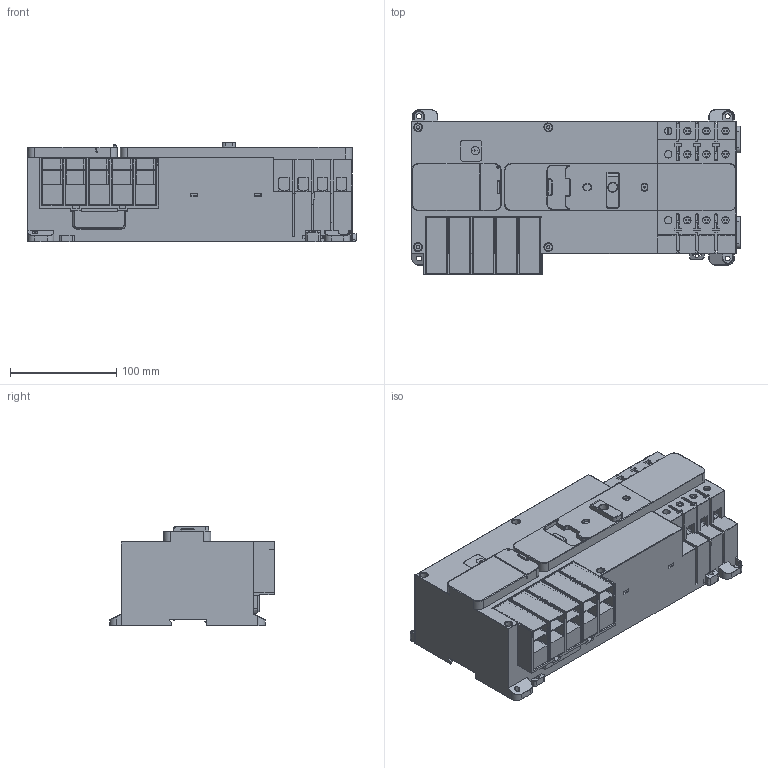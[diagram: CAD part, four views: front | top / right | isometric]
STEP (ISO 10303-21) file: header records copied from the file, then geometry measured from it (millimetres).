
FILE_DESCRIPTION((''),'2;1');
FILE_NAME('R1_IEC_3P_LCD_3D-SIMPLIFIED_ASM','2021-12-08T15:10:32',('SESA530330'),('Schneider-Electric'),'CREO PARAMETRIC BY PTC INC, 2019471','CREO PARAMETRIC BY PTC INC, 2019471','');
FILE_SCHEMA(('CONFIG_CONTROL_DESIGN'));
Products named in the file (3): R1_IEC_3P_LCD_3D-SIMPLIFIED_1; R1_IEC_3P_LCD_3D-SIMPLIFIED_ASM_ASM; R1_IEC_3P_LCD_3D-SIMPLIFIED_ASM
Assembly tree (2 placements, depth 3):
  R1_IEC_3P_LCD_3D-SIMPLIFIED_ASM
    R1_IEC_3P_LCD_3D-SIMPLIFIED_ASM_ASM
      R1_IEC_3P_LCD_3D-SIMPLIFIED_1
Bounding box: 310 x 155.3 x 94.25 mm (x, y, z)
Volume: 2967821.5 mm3; surface area: 290171.1 mm2
Topology: 1 solids, 2 shells, 1932 faces, 5271 edges, 3443 vertices
Faces by surface type: plane 1245, cylinder 483, extrusion 86, torus 50, sphere 26, bspline 22, cone 20
Entity records: 63725 total; most frequent: CARTESIAN_POINT 14715, ORIENTED_EDGE 10486, DIRECTION 9596, EDGE_CURVE 5243, VECTOR 3858, LINE 3772, VERTEX_POINT 3443, AXIS2_PLACEMENT_3D 2869
